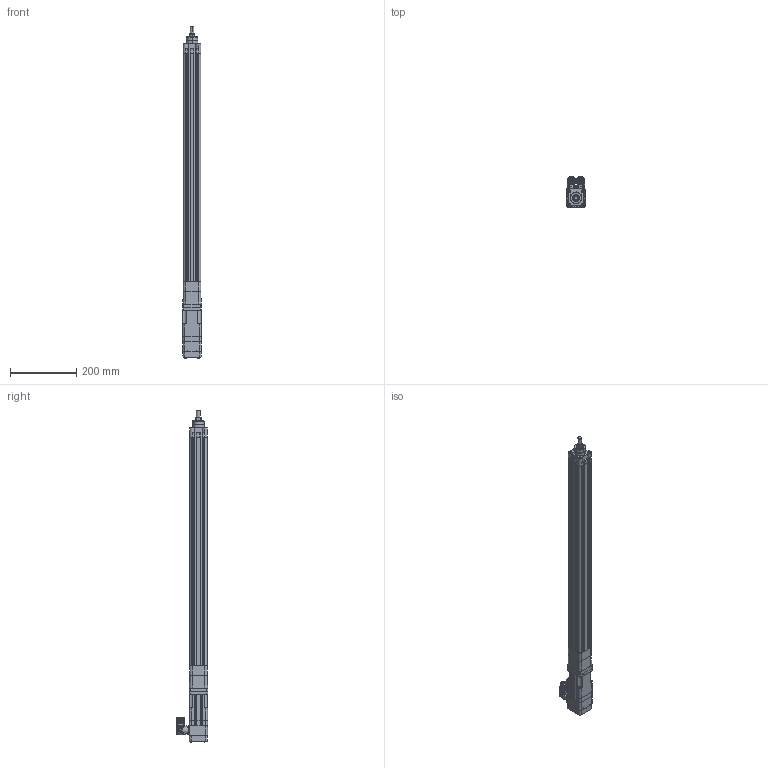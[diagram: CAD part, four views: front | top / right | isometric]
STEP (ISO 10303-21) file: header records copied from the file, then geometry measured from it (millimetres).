
FILE_DESCRIPTION((''),'2;1');
FILE_NAME('MPAR-X2600C-V2A_ASM','2009-04-15T',('dperuma'),('Rockwell Automation'),'PRO/ENGINEER BY PARAMETRIC TECHNOLOGY CORPORATION, 2004490','PRO/ENGINEER BY PARAMETRIC TECHNOLOGY CORPORATION, 2004490','');
FILE_SCHEMA(('CONFIG_CONTROL_DESIGN'));
Length unit declared in the file: millimetre
Products named in the file (45): 1-543134; 2-543134; 627369_627374_ASM; 627463; 627459; 627453; CA33127-020-0_1; EPF-CA30591-0_1; IMPORT-1113_1; IMPORT-1114_1; IMPORT-1115_1; EPF-CA28084-0_ASM_1_ASM; MPG-FASTNER-1116_1; MPG-FASTNER-1117_1; MPG-FASTNER-1118_1; MPG-FASTNER-1119_1; EPF-CA28083-0_ASM_1_ASM; DIN912-2-5-006-0_1; MPG-FASTNER-1122_1; MPG-FASTNER-1123_1; EPF-C08363-0_ASM_1_ASM; EPF-C08459-001-0_1; G4X2L20-0_ASM_1_ASM; B1530-HSG_1; EPF-B47940-001A_1; IMPORT-1106_1; MANIFOLD_SOLID_BREP_45981; MANIFOLD_SOLID_BREP_46020; MANIFOLD_SOLID_BREP_46059; MANIFOLD_SOLID_BREP_46098; MANIFOLD_SOLID_BREP_46137; MANIFOLD_SOLID_BREP_46176; MANIFOLD_SOLID_BREP_46215; MANIFOLD_SOLID_BREP_46254; IMPORT-1107_1_ASM; IMPORT-1108_1; A73229-002_D_ASM_1_ASM; EPF-CA30891-0_1; DIN912-003-012-_1; 0011-G402_1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
Assembly tree (67 placements, depth 6):
  MPAR-X2600C-V2A_ASM
    627369_627374_ASM
      1-543134
      2-543134
    627463
    627459
    627453
    MPL-1530-J42AA_ASM
      MPL-1530-J42AA-INST_ASM_1_ASM
        G4X2L20-0_ASM_1_ASM
          CA33127-020-0_1
          EPF-CA30591-0_1
          EPF-CA28084-0_ASM_1_ASM
            IMPORT-1113_1
            IMPORT-1114_1
            IMPORT-1115_1
          EPF-CA28083-0_ASM_1_ASM
            MPG-FASTNER-1116_1
            MPG-FASTNER-1117_1
            MPG-FASTNER-1118_1
            MPG-FASTNER-1119_1
          DIN912-2-5-006-0_1  x8
          EPF-C08363-0_ASM_1_ASM  x4
            MPG-FASTNER-1122_1
            MPG-FASTNER-1123_1
          EPF-C08459-001-0_1  x8
        B1530-HSG_1
        EPF-B47940-001A_1
        A73229-002_D_ASM_1_ASM
          IMPORT-1106_1
          IMPORT-1107_1_ASM
            MANIFOLD_SOLID_BREP_45981
            MANIFOLD_SOLID_BREP_46020
            MANIFOLD_SOLID_BREP_46059
            MANIFOLD_SOLID_BREP_46098
            MANIFOLD_SOLID_BREP_46137
            MANIFOLD_SOLID_BREP_46176
            MANIFOLD_SOLID_BREP_46215
            MANIFOLD_SOLID_BREP_46254
          IMPORT-1108_1
        EPF-CA30891-0_1
        DIN912-003-012-_1  x4
        0011-G402_1
        CA31994-0-INST_1
        EPF-DIN7985-003-020-0_1  x4
Bounding box: 55.03 x 94 x 1001.19 mm (x, y, z)
Volume: 1889837.2 mm3; surface area: 508020.7 mm2
Topology: 61 solids, 68 shells, 3191 faces, 8271 edges, 5239 vertices
Faces by surface type: cylinder 1353, plane 981, cone 521, torus 198, bspline 74, sphere 64
Entity records: 92521 total; most frequent: CARTESIAN_POINT 25983, DIRECTION 14073, ORIENTED_EDGE 13712, EDGE_CURVE 6862, AXIS2_PLACEMENT_3D 5506, VERTEX_POINT 4475, VECTOR 3061, LINE 3061
